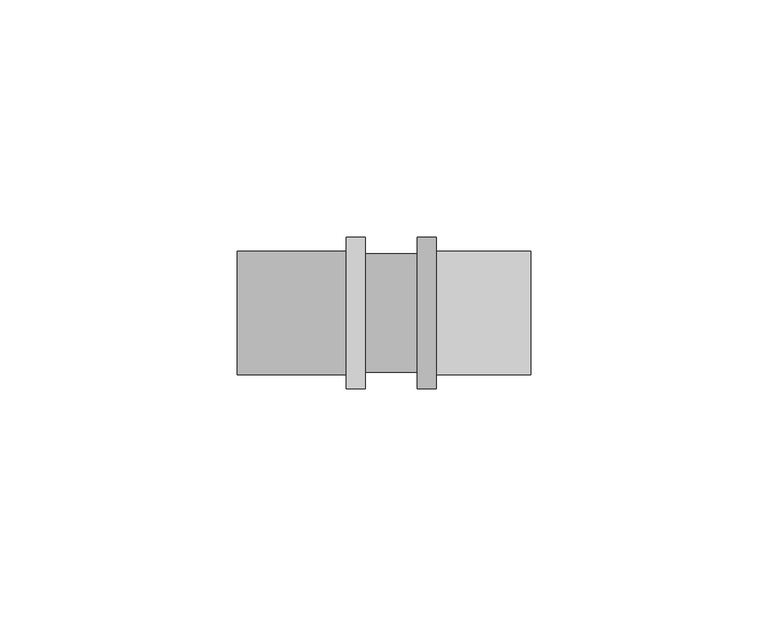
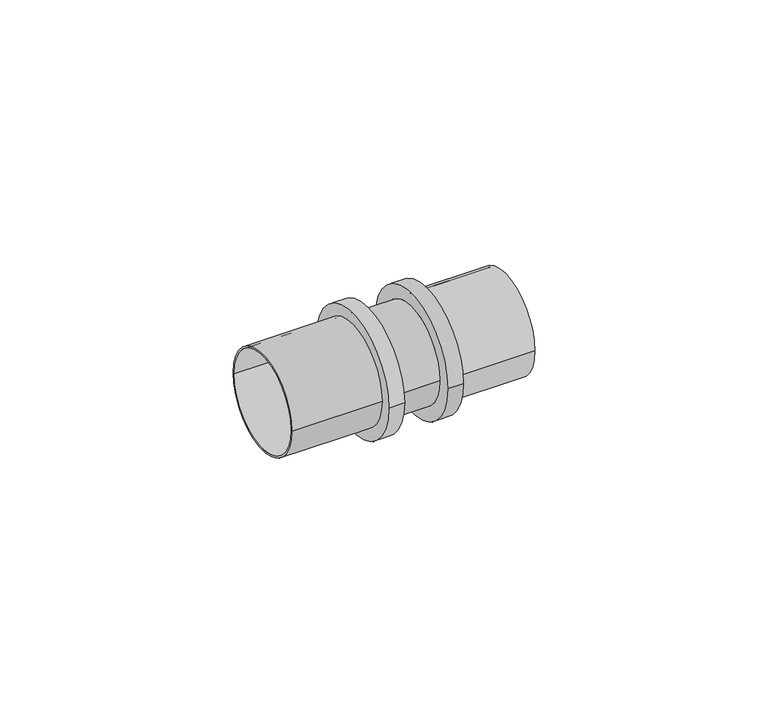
"""IFC4 building model written with IfcOpenShell, lengths in millimetres: pipe fitting geometry, БИР ПЕКС_НПР_Соединитель_Резьба_Наружная : Соединитель прямой с наружной резьбой."""

from ifc_helpers import new_model, si_unit, point, frame, origin, origin_2d, place, context, project, spatial, circle_curve, trimmed, segment, composite_curve, outline, extrude, source, transform, mapped, element, save


def pipe_fitting_5d692b80(model_context):
    return source(origin(), model_context, "Body", "SweptSolid", [
        extrude(outline(composite_curve([segment(trimmed(circle_curve(origin_2d(), 13.0), [point((-13.0, 0.0))], [point((13.0, 0.0))], False, "CARTESIAN"), True, "CONTINUOUS"), segment(trimmed(circle_curve(origin_2d(), 13.0), [point((13.0, 0.0))], [point((-13.0, 0.0))], False, "CARTESIAN"), True, "CONTINUOUS")], self_intersect=False), holes=[composite_curve([segment(trimmed(circle_curve(origin_2d(), 12.5), [point((-12.5, 0.0))], [point((12.5, 0.0))], True, "CARTESIAN"), True, "CONTINUOUS"), segment(trimmed(circle_curve(origin_2d(), 12.5), [point((12.5, 0.0))], [point((-12.5, 0.0))], True, "CARTESIAN"), True, "CONTINUOUS")], self_intersect=False)]), frame((-29.375, 0.0, 0.0), z_axis=(1.0, 0.0, 0.0), x_axis=(0.0, 1.0, 0.0)), (0.0, 0.0, 1.0), 23.0),
        extrude(outline(composite_curve([segment(trimmed(circle_curve(origin_2d(), 13.0), [point((-13.0, 0.0))], [point((13.0, 0.0))], False, "CARTESIAN"), True, "CONTINUOUS"), segment(trimmed(circle_curve(origin_2d(), 13.0), [point((13.0, 0.0))], [point((-13.0, 0.0))], False, "CARTESIAN"), True, "CONTINUOUS")], self_intersect=False), holes=[composite_curve([segment(trimmed(circle_curve(origin_2d(), 12.5), [point((-12.5, 0.0))], [point((12.5, 0.0))], True, "CARTESIAN"), True, "CONTINUOUS"), segment(trimmed(circle_curve(origin_2d(), 12.5), [point((12.5, 0.0))], [point((-12.5, 0.0))], True, "CARTESIAN"), True, "CONTINUOUS")], self_intersect=False)]), frame((12.625, 0.0, 0.0), z_axis=(1.0, 0.0, 0.0), x_axis=(0.0, 1.0, 0.0)), (0.0, 0.0, 1.0), 20.0),
        extrude(outline(composite_curve([segment(trimmed(circle_curve(origin_2d(), 12.5), [point((-12.5, 0.0))], [point((12.5, 0.0))], False, "CARTESIAN"), True, "CONTINUOUS"), segment(trimmed(circle_curve(origin_2d(), 12.5), [point((12.5, 0.0))], [point((-12.5, 0.0))], False, "CARTESIAN"), True, "CONTINUOUS")], self_intersect=False)), frame((-2.375, 0.0, 0.0), z_axis=(1.0, 0.0, 0.0), x_axis=(0.0, 1.0, 0.0)), (0.0, 0.0, 1.0), 11.0),
        extrude(outline(composite_curve([segment(trimmed(circle_curve(origin_2d(), 16.0), [point((-16.0, 0.0))], [point((16.0, 0.0))], False, "CARTESIAN"), True, "CONTINUOUS"), segment(trimmed(circle_curve(origin_2d(), 16.0), [point((16.0, 0.0))], [point((-16.0, 0.0))], False, "CARTESIAN"), True, "CONTINUOUS")], self_intersect=False), holes=[composite_curve([segment(trimmed(circle_curve(origin_2d(), 12.5), [point((-12.5, 0.0))], [point((12.5, 0.0))], True, "CARTESIAN"), True, "CONTINUOUS"), segment(trimmed(circle_curve(origin_2d(), 12.5), [point((12.5, 0.0))], [point((-12.5, 0.0))], True, "CARTESIAN"), True, "CONTINUOUS")], self_intersect=False)]), frame((8.625, 0.0, 0.0), z_axis=(1.0, 0.0, 0.0), x_axis=(0.0, 1.0, 0.0)), (0.0, 0.0, 1.0), 4.0),
        extrude(outline(composite_curve([segment(trimmed(circle_curve(origin_2d(), 16.0), [point((-16.0, 0.0))], [point((16.0, 0.0))], False, "CARTESIAN"), True, "CONTINUOUS"), segment(trimmed(circle_curve(origin_2d(), 16.0), [point((16.0, 0.0))], [point((-16.0, 0.0))], False, "CARTESIAN"), True, "CONTINUOUS")], self_intersect=False), holes=[composite_curve([segment(trimmed(circle_curve(origin_2d(), 12.5), [point((-12.5, 0.0))], [point((12.5, 0.0))], True, "CARTESIAN"), True, "CONTINUOUS"), segment(trimmed(circle_curve(origin_2d(), 12.5), [point((12.5, 0.0))], [point((-12.5, 0.0))], True, "CARTESIAN"), True, "CONTINUOUS")], self_intersect=False)]), frame((-6.375, 0.0, 0.0), z_axis=(1.0, 0.0, 0.0), x_axis=(0.0, 1.0, 0.0)), (0.0, 0.0, 1.0), 4.0),
    ])


if __name__ == "__main__":
    model = new_model("IFC4")
    model_context = context("Model", 3, world=origin())
    ifc_project = project(units=[si_unit("LENGTHUNIT", "METRE", prefix="MILLI")], contexts=[model_context])
    site = spatial("IfcSite", under=ifc_project)
    building = spatial("IfcBuilding", under=site)
    placement = place(None, origin())
    pipe_fitting_shape = pipe_fitting_5d692b80(model_context)
    element("IfcPipeFitting", 1, ObjectType="БИР ПЕКС_НПР_Соединитель_Резьба_Наружная : Соединитель прямой с наружной резьбой", at=placement, inside=building, context=model_context, shape_type="MappedRepresentation", body=[
        mapped(pipe_fitting_shape, transform((0.0, 0.0, 0.0), x_axis=(1.0, 0.0, 0.0), y_axis=(0.0, 1.0, 0.0), z_axis=(0.0, 0.0, 1.0))),
    ])
    save(model, "model.ifc")
